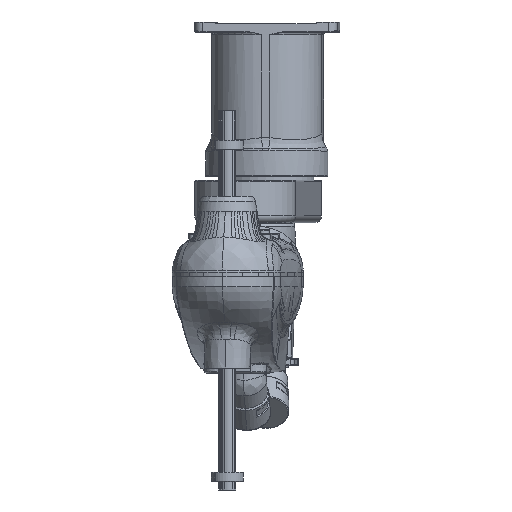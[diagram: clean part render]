
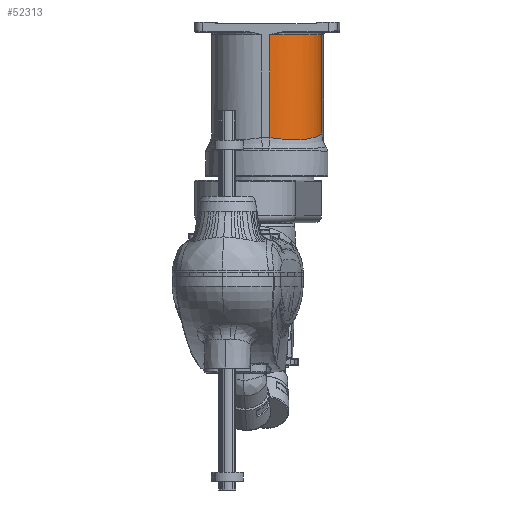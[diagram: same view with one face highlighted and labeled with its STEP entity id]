
A CAD part, left-side view. The second image highlights one B-rep face of the part: STEP entity #52313.
In plain terms, the highlighted cylindrical face has radius 60 mm (diameter 120 mm), a partial arc.
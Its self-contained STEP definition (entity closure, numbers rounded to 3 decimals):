
#1148 = CARTESIAN_POINT ( 'NONE',  ( 84.834, 53.294, 1423.001 ) ) ;
#1952 = EDGE_CURVE ( 'NONE', #146850, #94903, #14181, .T. ) ;
#2280 = CARTESIAN_POINT ( 'NONE',  ( 31.511, 61.349, 1455.474 ) ) ;
#2869 = CARTESIAN_POINT ( 'NONE',  ( 58.427, 57.899, 1429.115 ) ) ;
#3856 = DIRECTION ( 'NONE',  ( 0., 1., 0. ) ) ;
#14181 = LINE ( 'NONE', #138814, #168440 ) ;
#14637 = ORIENTED_EDGE ( 'NONE', *, *, #135389, .T. ) ;
#15673 = CARTESIAN_POINT ( 'NONE',  ( 48.469, 59.607, 1435.236 ) ) ;
#16244 = CARTESIAN_POINT ( 'NONE',  ( 29.807, 61.254, 1459.062 ) ) ;
#16823 = CARTESIAN_POINT ( 'NONE',  ( 46.189, 59.966, 1437.093 ) ) ;
#28488 = CARTESIAN_POINT ( 'NONE',  ( 24.931, 59.382, 1479.057 ) ) ;
#29639 = CARTESIAN_POINT ( 'NONE',  ( 61.107, 57.425, 1427.882 ) ) ;
#30226 = CARTESIAN_POINT ( 'NONE',  ( 69.349, 55.96, 1424.903 ) ) ;
#41352 = CARTESIAN_POINT ( 'NONE',  ( 24.834, 58.822, 1483.001 ) ) ;
#42498 = CARTESIAN_POINT ( 'NONE',  ( 24.834, 58.822, 1483.001 ) ) ;
#43647 = CARTESIAN_POINT ( 'NONE',  ( 32.925, 61.365, 1452.843 ) ) ;
#44062 = CARTESIAN_POINT ( 'NONE',  ( 24.834, 104.644, 1483.001 ) ) ;
#52313 = ADVANCED_FACE ( 'NONE', ( #149841 ), #74797, .T. ) ;
#54747 = CARTESIAN_POINT ( 'NONE',  ( 54.961, 58.508, 1430.929 ) ) ;
#57052 = CARTESIAN_POINT ( 'NONE',  ( 79.924, 54.125, 1423.194 ) ) ;
#68684 = CARTESIAN_POINT ( 'NONE',  ( 33.947, 61.338, 1451.151 ) ) ;
#69259 = CARTESIAN_POINT ( 'NONE',  ( 24.834, 59.11, 1481.026 ) ) ;
#69820 = LINE ( 'NONE', #44062, #136526 ) ;
#69847 = CARTESIAN_POINT ( 'NONE',  ( 65.633, 56.621, 1426.021 ) ) ;
#70415 = CARTESIAN_POINT ( 'NONE',  ( 80.905, 53.957, 1423.121 ) ) ;
#74797 = CYLINDRICAL_SURFACE ( 'NONE', #99709, 60. ) ;
#75199 = ORIENTED_EDGE ( 'NONE', *, *, #1952, .F. ) ;
#82049 = CARTESIAN_POINT ( 'NONE',  ( 31.06, 61.335, 1456.366 ) ) ;
#82627 = CARTESIAN_POINT ( 'NONE',  ( 53.286, 58.799, 1431.927 ) ) ;
#85321 = B_SPLINE_CURVE_WITH_KNOTS ( 'NONE', 3,
 ( #41352, #69259, #28488, #94875, #150211, #96611, #95437, #16244, #161283, #82049, #2280, #43647, #68684, #149059, #134539, #135670, #162431, #122275, #16823, #15673, #136254, #82627, #54747, #109471, #2869, #148468, #29639, #69847, #30226, #108881, #123444, #57052, #70415, #96022, #147910, #1148 ),
 .UNSPECIFIED., .F., .F.,
 ( 4, 2, 2, 2, 2, 2, 2, 2, 2, 2, 2, 2, 2, 2, 2, 2, 2, 4 ),
 ( 0., 0.006, 0.012, 0.024, 0.027, 0.03, 0.036, 0.048, 0.051, 0.054, 0.06, 0.066, 0.069, 0.072, 0.084, 0.09, 0.093, 0.096 ),
 .UNSPECIFIED. ) ;
#90785 = AXIS2_PLACEMENT_3D ( 'NONE', #107273, #148571, #95536 ) ;
#94875 = CARTESIAN_POINT ( 'NONE',  ( 25.32, 59.888, 1475.127 ) ) ;
#94903 = VERTEX_POINT ( 'NONE', #145395 ) ;
#95437 = CARTESIAN_POINT ( 'NONE',  ( 27.915, 61.046, 1463.614 ) ) ;
#95536 = DIRECTION ( 'NONE',  ( 0., 0., 1. ) ) ;
#96022 = CARTESIAN_POINT ( 'NONE',  ( 82.868, 53.625, 1423.025 ) ) ;
#96611 = CARTESIAN_POINT ( 'NONE',  ( 26.773, 60.741, 1467.366 ) ) ;
#98007 = DIRECTION ( 'NONE',  ( 0., 1., 0. ) ) ;
#99709 = AXIS2_PLACEMENT_3D ( 'NONE', #151249, #101679, #156396 ) ;
#100016 = EDGE_LOOP ( 'NONE', ( #75199, #14637, #150557, #112574 ) ) ;
#101679 = DIRECTION ( 'NONE',  ( 0., -1., 0. ) ) ;
#103512 = EDGE_CURVE ( 'NONE', #162650, #155547, #69820, .T. ) ;
#107273 = CARTESIAN_POINT ( 'NONE',  ( 84.834, -63.356, 1483.001 ) ) ;
#108881 = CARTESIAN_POINT ( 'NONE',  ( 75.064, 54.962, 1423.769 ) ) ;
#109471 = CARTESIAN_POINT ( 'NONE',  ( 57.55, 58.054, 1429.554 ) ) ;
#112574 = ORIENTED_EDGE ( 'NONE', *, *, #155531, .T. ) ;
#122275 = CARTESIAN_POINT ( 'NONE',  ( 45.442, 60.081, 1437.732 ) ) ;
#123444 = CARTESIAN_POINT ( 'NONE',  ( 76.993, 54.627, 1423.483 ) ) ;
#125641 = CARTESIAN_POINT ( 'NONE',  ( 24.834, -63.356, 1483.001 ) ) ;
#131659 = CARTESIAN_POINT ( 'NONE',  ( 84.834, -63.356, 1423.001 ) ) ;
#134539 = CARTESIAN_POINT ( 'NONE',  ( 39.74, 60.882, 1443.224 ) ) ;
#135389 = EDGE_CURVE ( 'NONE', #146850, #162650, #138598, .T. ) ;
#135670 = CARTESIAN_POINT ( 'NONE',  ( 43.251, 60.402, 1439.735 ) ) ;
#136254 = CARTESIAN_POINT ( 'NONE',  ( 50.04, 59.348, 1434.08 ) ) ;
#136526 = VECTOR ( 'NONE', #3856, 1000. ) ;
#138598 = CIRCLE ( 'NONE', #90785, 60. ) ;
#138814 = CARTESIAN_POINT ( 'NONE',  ( 84.834, 104.644, 1423.001 ) ) ;
#145395 = CARTESIAN_POINT ( 'NONE',  ( 84.834, 53.294, 1423.001 ) ) ;
#146850 = VERTEX_POINT ( 'NONE', #131659 ) ;
#147910 = CARTESIAN_POINT ( 'NONE',  ( 83.85, 53.459, 1423.001 ) ) ;
#148468 = CARTESIAN_POINT ( 'NONE',  ( 60.206, 57.585, 1428.279 ) ) ;
#148571 = DIRECTION ( 'NONE',  ( 0., 1., 0. ) ) ;
#149059 = CARTESIAN_POINT ( 'NONE',  ( 37.241, 61.15, 1446.253 ) ) ;
#149841 = FACE_OUTER_BOUND ( 'NONE', #100016, .T. ) ;
#150211 = CARTESIAN_POINT ( 'NONE',  ( 25.613, 60.122, 1473.161 ) ) ;
#150557 = ORIENTED_EDGE ( 'NONE', *, *, #103512, .T. ) ;
#151249 = CARTESIAN_POINT ( 'NONE',  ( 84.834, 104.644, 1483.001 ) ) ;
#155531 = EDGE_CURVE ( 'NONE', #155547, #94903, #85321, .T. ) ;
#155547 = VERTEX_POINT ( 'NONE', #42498 ) ;
#156396 = DIRECTION ( 'NONE',  ( 0., 0., 1. ) ) ;
#161283 = CARTESIAN_POINT ( 'NONE',  ( 30.209, 61.287, 1458.159 ) ) ;
#162431 = CARTESIAN_POINT ( 'NONE',  ( 43.974, 60.298, 1439.052 ) ) ;
#162650 = VERTEX_POINT ( 'NONE', #125641 ) ;
#168440 = VECTOR ( 'NONE', #98007, 1000. ) ;
